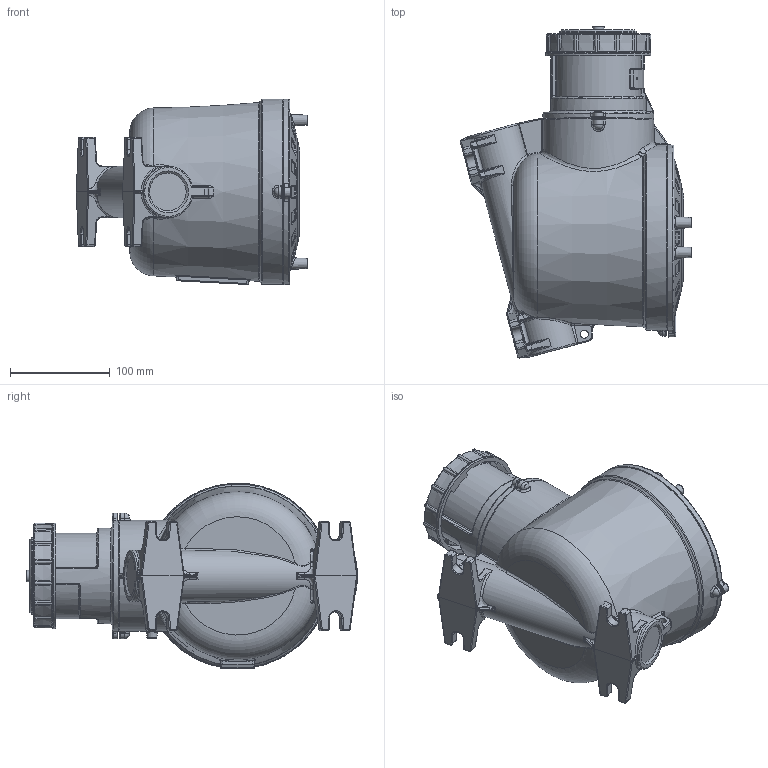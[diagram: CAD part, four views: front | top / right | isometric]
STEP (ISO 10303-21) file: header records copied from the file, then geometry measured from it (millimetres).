
FILE_DESCRIPTION((''),'2;1');
FILE_NAME('C:\Users\L.A.Ronzhin\Desktop\Публикации\РГС-63-415-4_ПРОМ_МОРЕ.stp','2020-08-11T08:20:15',('L.A.Ronzhin'),(''),'Autodesk Inventor 2012','Autodesk Inventor 2012','');
FILE_SCHEMA(('AUTOMOTIVE_DESIGN { 1 0 10303 214 1 1 1 1 }'));
Length unit declared in the file: millimetre
Products named in the file (1): РГС-63-415-4_ПРОМ_МОРЕ
Bounding box: 232.8 x 333.55 x 186.39 mm (x, y, z)
Volume: 5281899 mm3; surface area: 235109.4 mm2
Topology: 1 solids, 1 shells, 1662 faces, 3935 edges, 2211 vertices
Faces by surface type: bspline 726, cylinder 359, torus 277, plane 195, cone 50, sphere 40, revolution 15
Full cylindrical faces by diameter (mm): 2 x8, 3.2 x1, 3.3 x1, 4 x3, 5 x2, 8 x1, 11.5 x1, 76.5 x1, 77.5 x1, 80 x1, 95.5 x1, 106 x1, 111.5 x1
Entity records: 96377 total; most frequent: CARTESIAN_POINT 63466, ORIENTED_EDGE 7514, DIRECTION 5659, EDGE_CURVE 3757, AXIS2_PLACEMENT_3D 2506, VERTEX_POINT 2185, EDGE_LOOP 1762, FACE_OUTER_BOUND 1660
